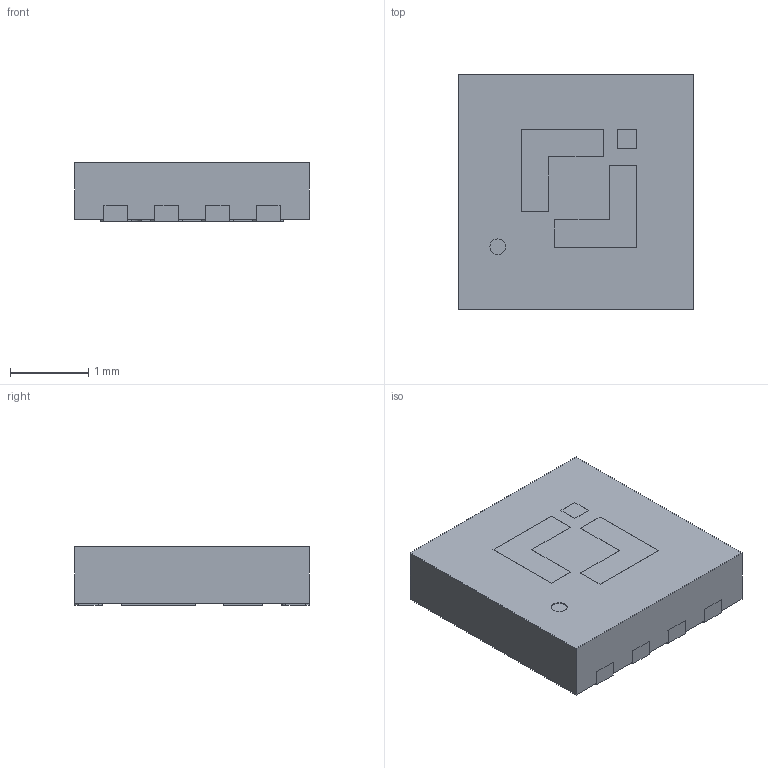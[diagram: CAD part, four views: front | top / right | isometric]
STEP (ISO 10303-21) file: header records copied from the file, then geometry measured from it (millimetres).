
FILE_DESCRIPTION(('HOOPS Exchange Step'),'2;1');
FILE_NAME('C:\Users\18121\AppData\Local\Packages\Shapr3D.Shapr3D_dvv5p1vgwv6mp\TempState\export\temp_export','2026-01-27T13:26:49+08:00',('18121'),('Shapr3D Limited'),'HOOPS Exchange 2025.9','Shapr3D','Authorized');
FILE_SCHEMA( ('AP242_MANAGED_MODEL_BASED_3D_ENGINEERING_MIM_LF {1 0 10303 442 1 1 4}') );
Length unit declared in the file: millimetre
Products named in the file (1): root
Bounding box: 3 x 3 x 0.75 mm (x, y, z)
Volume: 6.6 mm3; surface area: 43.6 mm2
Topology: 11 solids, 11 shells, 197 faces, 507 edges, 338 vertices
Faces by surface type: plane 162, cylinder 35
Full cylindrical faces by diameter (mm): 0.2 x1
Entity records: 5998 total; most frequent: CARTESIAN_POINT 1044, ORIENTED_EDGE 1014, DIRECTION 975, EDGE_CURVE 507, VECTOR 437, LINE 437, VERTEX_POINT 338, AXIS2_PLACEMENT_3D 269
